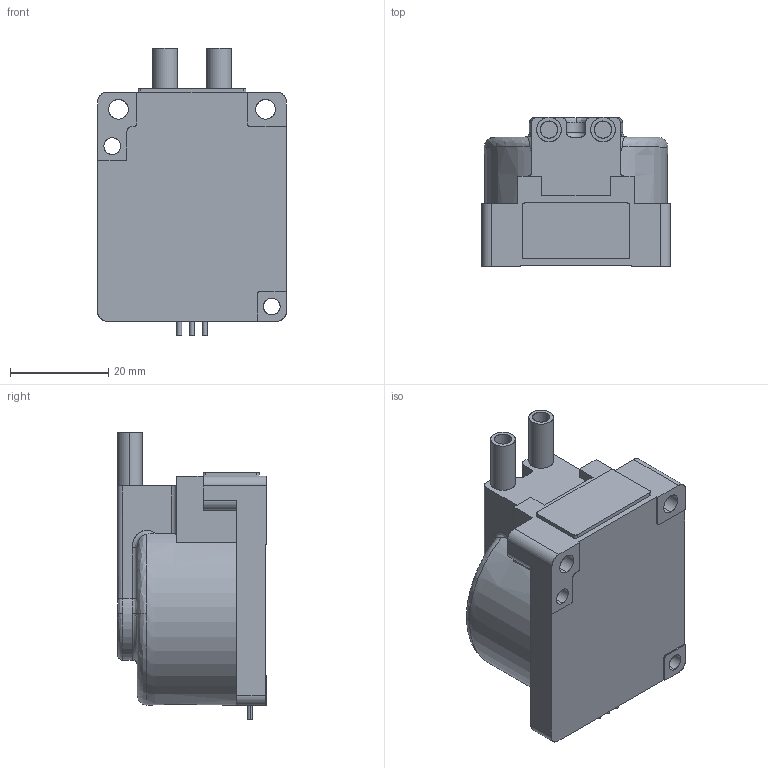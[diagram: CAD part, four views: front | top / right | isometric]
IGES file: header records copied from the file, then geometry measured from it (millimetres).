
Start section: SolidWorks IGES file using analytic representation for surfaces
Global section: file name: \Master1\bumon\MC\個人別\6711大越征晴\ポンプ簡略\ポンプ簡略ow.IGS; native system: SolidWorks 2006 by SolidWorks Corporation; preprocessor: SolidWorks 2006 by SolidWorks Corporation; author: 3dcad; date: 090709.133757; units: millimetre
Bounding box: 38.5 x 30.35 x 58.7 mm (x, y, z)
Surface area: 8992.9 mm2 (no closed solid volume)
Topology: 0 solids, 0 shells, 114 faces, 1586 edges, 1584 vertices
Faces by surface type: bspline 64, revolution 50
